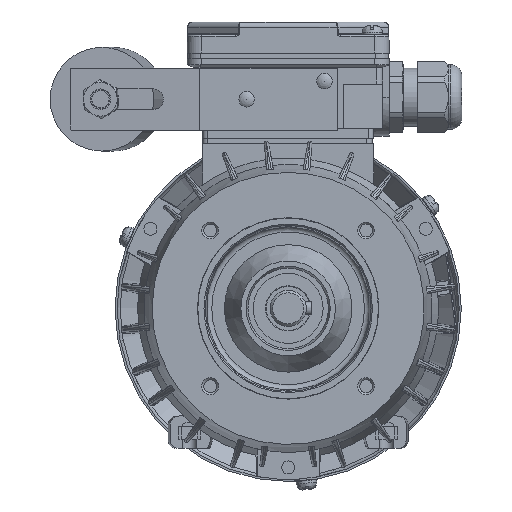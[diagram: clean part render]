
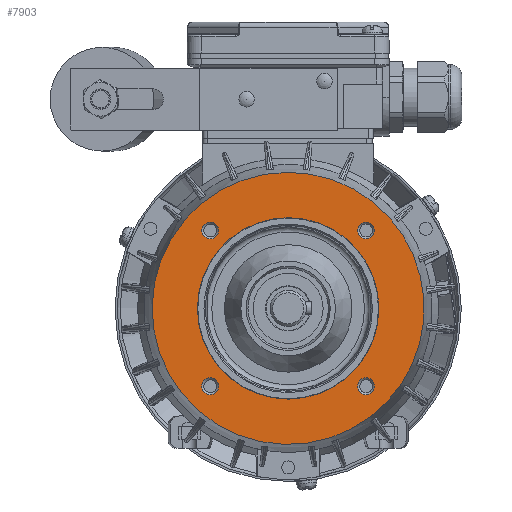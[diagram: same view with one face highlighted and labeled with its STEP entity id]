
A CAD part, front view. The second image highlights one B-rep face of the part: STEP entity #7903.
In plain terms, the highlighted planar face has unit normal (0, -1, 0) as drawn and (-1, 0, 0) by its records, which use the part's own axes.
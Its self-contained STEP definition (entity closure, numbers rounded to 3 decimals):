
#7903 = ADVANCED_FACE( '', ( #15753, #15754, #15755, #15756, #15757, #15758 ), #15759, .F. );
#15753 = FACE_BOUND( '', #62763, .T. );
#15754 = FACE_BOUND( '', #62764, .T. );
#15755 = FACE_BOUND( '', #62765, .T. );
#15756 = FACE_BOUND( '', #62766, .T. );
#15757 = FACE_BOUND( '', #62767, .T. );
#15758 = FACE_OUTER_BOUND( '', #62768, .T. );
#15759 = PLANE( '', #62769 );
#62763 = EDGE_LOOP( '', ( #84033 ) );
#62764 = EDGE_LOOP( '', ( #84034 ) );
#62765 = EDGE_LOOP( '', ( #84035 ) );
#62766 = EDGE_LOOP( '', ( #84036 ) );
#62767 = EDGE_LOOP( '', ( #84037 ) );
#62768 = EDGE_LOOP( '', ( #84038 ) );
#62769 = AXIS2_PLACEMENT_3D( '', #84039, #84040, #84041 );
#84033 = ORIENTED_EDGE( '', *, *, #92059, .T. );
#84034 = ORIENTED_EDGE( '', *, *, #89154, .T. );
#84035 = ORIENTED_EDGE( '', *, *, #92520, .T. );
#84036 = ORIENTED_EDGE( '', *, *, #85689, .T. );
#84037 = ORIENTED_EDGE( '', *, *, #89004, .F. );
#84038 = ORIENTED_EDGE( '', *, *, #92610, .T. );
#84039 = CARTESIAN_POINT( '', ( 2.5, 0., 52.5 ) );
#84040 = DIRECTION( '', ( 1., 0., 0. ) );
#84041 = DIRECTION( '', ( 0., 0., -1. ) );
#85689 = EDGE_CURVE( '', #95381, #95381, #95382, .T. );
#89004 = EDGE_CURVE( '', #100797, #100797, #100798, .T. );
#89154 = EDGE_CURVE( '', #101023, #101023, #101024, .T. );
#92059 = EDGE_CURVE( '', #104899, #104899, #104900, .T. );
#92520 = EDGE_CURVE( '', #105417, #105417, #105418, .T. );
#92610 = EDGE_CURVE( '', #105522, #105522, #105523, .T. );
#95381 = VERTEX_POINT( '', #112394 );
#95382 = CIRCLE( '', #112395, 3.259 );
#100797 = VERTEX_POINT( '', #131680 );
#100798 = CIRCLE( '', #131681, 35. );
#101023 = VERTEX_POINT( '', #132653 );
#101024 = CIRCLE( '', #132654, 3.259 );
#104899 = VERTEX_POINT( '', #148170 );
#104900 = CIRCLE( '', #148171, 3.259 );
#105417 = VERTEX_POINT( '', #150508 );
#105418 = CIRCLE( '', #150509, 3.259 );
#105522 = VERTEX_POINT( '', #151037 );
#105523 = CIRCLE( '', #151038, 52.5 );
#112394 = CARTESIAN_POINT( '', ( 2.5, -33.311, 30.052 ) );
#112395 = AXIS2_PLACEMENT_3D( '', #154141, #154142, #154143 );
#131680 = CARTESIAN_POINT( '', ( 2.5, 0., 35. ) );
#131681 = AXIS2_PLACEMENT_3D( '', #157910, #157911, #157912 );
#132653 = CARTESIAN_POINT( '', ( 2.5, 26.794, -30.052 ) );
#132654 = AXIS2_PLACEMENT_3D( '', #158081, #158082, #158083 );
#148170 = CARTESIAN_POINT( '', ( 2.5, 26.794, 30.052 ) );
#148171 = AXIS2_PLACEMENT_3D( '', #161232, #161233, #161234 );
#150508 = CARTESIAN_POINT( '', ( 2.5, -33.311, -30.052 ) );
#150509 = AXIS2_PLACEMENT_3D( '', #161529, #161530, #161531 );
#151037 = CARTESIAN_POINT( '', ( 2.5, 0., 52.5 ) );
#151038 = AXIS2_PLACEMENT_3D( '', #161609, #161610, #161611 );
#154141 = CARTESIAN_POINT( '', ( 2.5, -30.052, 30.052 ) );
#154142 = DIRECTION( '', ( 1., 0., 0. ) );
#154143 = DIRECTION( '', ( 0., -1., 0. ) );
#157910 = CARTESIAN_POINT( '', ( 2.5, 0., 0. ) );
#157911 = DIRECTION( '', ( -1., 0., 0. ) );
#157912 = DIRECTION( '', ( 0., 0., 1. ) );
#158081 = CARTESIAN_POINT( '', ( 2.5, 30.052, -30.052 ) );
#158082 = DIRECTION( '', ( 1., 0., 0. ) );
#158083 = DIRECTION( '', ( 0., -1., 0. ) );
#161232 = CARTESIAN_POINT( '', ( 2.5, 30.052, 30.052 ) );
#161233 = DIRECTION( '', ( 1., 0., 0. ) );
#161234 = DIRECTION( '', ( 0., -1., 0. ) );
#161529 = CARTESIAN_POINT( '', ( 2.5, -30.052, -30.052 ) );
#161530 = DIRECTION( '', ( 1., 0., 0. ) );
#161531 = DIRECTION( '', ( 0., -1., 0. ) );
#161609 = CARTESIAN_POINT( '', ( 2.5, 0., 0. ) );
#161610 = DIRECTION( '', ( -1., 0., 0. ) );
#161611 = DIRECTION( '', ( 0., 0., 1. ) );
